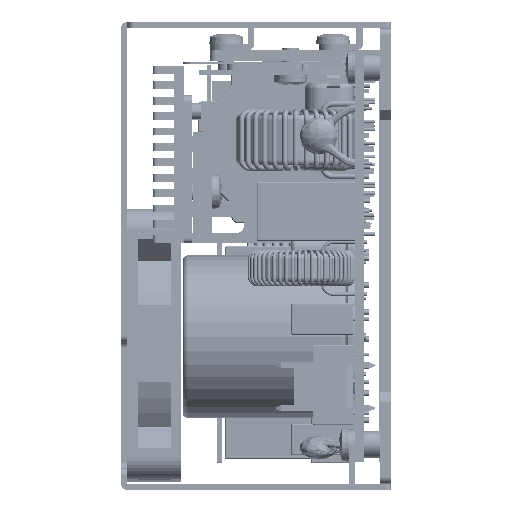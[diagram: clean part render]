
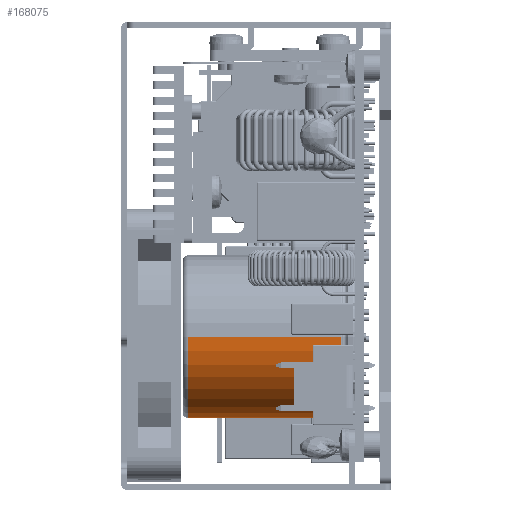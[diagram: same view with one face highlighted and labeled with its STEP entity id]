
A CAD part, left-side view. The second image highlights one B-rep face of the part: STEP entity #168075.
In plain terms, the highlighted cylindrical face has radius 15.05 mm (diameter 30.1 mm), a partial arc.
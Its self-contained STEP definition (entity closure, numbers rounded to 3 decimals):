
#5353 = DIRECTION ( 'NONE',  ( 0., -1., 0. ) ) ;
#5496 = DIRECTION ( 'NONE',  ( 0., -1., 0. ) ) ;
#38593 = LINE ( 'NONE', #338163, #242857 ) ;
#48651 = VERTEX_POINT ( 'NONE', #298049 ) ;
#53064 = ORIENTED_EDGE ( 'NONE', *, *, #225349, .F. ) ;
#57858 = CIRCLE ( 'NONE', #311313, 15.05 ) ;
#60297 = ORIENTED_EDGE ( 'NONE', *, *, #300758, .F. ) ;
#64296 = CIRCLE ( 'NONE', #76238, 15.05 ) ;
#65084 = VERTEX_POINT ( 'NONE', #79846 ) ;
#66771 = ORIENTED_EDGE ( 'NONE', *, *, #130459, .T. ) ;
#67726 = DIRECTION ( 'NONE',  ( 0., -1., 0. ) ) ;
#76238 = AXIS2_PLACEMENT_3D ( 'NONE', #283521, #117236, #311445 ) ;
#79846 = CARTESIAN_POINT ( 'NONE',  ( -55.417, 0.035, 112.501 ) ) ;
#96337 = AXIS2_PLACEMENT_3D ( 'NONE', #235418, #67726, #346963 ) ;
#113761 = EDGE_CURVE ( 'NONE', #48651, #217081, #38593, .T. ) ;
#117236 = DIRECTION ( 'NONE',  ( 0., -1., 0. ) ) ;
#118973 = CARTESIAN_POINT ( 'NONE',  ( -25.317, 0.035, 112.501 ) ) ;
#130443 = DIRECTION ( 'NONE',  ( 0., -1., 0. ) ) ;
#130459 = EDGE_CURVE ( 'NONE', #297198, #48651, #64296, .T. ) ;
#150732 = LINE ( 'NONE', #281220, #298415 ) ;
#168075 = ADVANCED_FACE ( 'NONE', ( #169615 ), #356266, .T. ) ;
#169615 = FACE_OUTER_BOUND ( 'NONE', #292807, .T. ) ;
#217081 = VERTEX_POINT ( 'NONE', #118973 ) ;
#225349 = EDGE_CURVE ( 'NONE', #297198, #65084, #150732, .T. ) ;
#228531 = ORIENTED_EDGE ( 'NONE', *, *, #113761, .T. ) ;
#235418 = CARTESIAN_POINT ( 'NONE',  ( -40.367, -2.636, 112.501 ) ) ;
#242857 = VECTOR ( 'NONE', #5353, 1000. ) ;
#260838 = CARTESIAN_POINT ( 'NONE',  ( -55.417, 28.364, 112.501 ) ) ;
#281220 = CARTESIAN_POINT ( 'NONE',  ( -55.417, -2.636, 112.501 ) ) ;
#283521 = CARTESIAN_POINT ( 'NONE',  ( -40.367, 28.364, 112.501 ) ) ;
#292807 = EDGE_LOOP ( 'NONE', ( #66771, #228531, #60297, #53064 ) ) ;
#296752 = CARTESIAN_POINT ( 'NONE',  ( -40.367, 0.035, 112.501 ) ) ;
#297198 = VERTEX_POINT ( 'NONE', #260838 ) ;
#298049 = CARTESIAN_POINT ( 'NONE',  ( -25.317, 28.364, 112.501 ) ) ;
#298415 = VECTOR ( 'NONE', #5496, 1000. ) ;
#300758 = EDGE_CURVE ( 'NONE', #65084, #217081, #57858, .T. ) ;
#311313 = AXIS2_PLACEMENT_3D ( 'NONE', #296752, #130443, #324683 ) ;
#311445 = DIRECTION ( 'NONE',  ( -1., 0., 0. ) ) ;
#324683 = DIRECTION ( 'NONE',  ( -1., 0., 0. ) ) ;
#338163 = CARTESIAN_POINT ( 'NONE',  ( -25.317, -2.636, 112.501 ) ) ;
#346963 = DIRECTION ( 'NONE',  ( -1., 0., 0. ) ) ;
#356266 = CYLINDRICAL_SURFACE ( 'NONE', #96337, 15.05 ) ;
